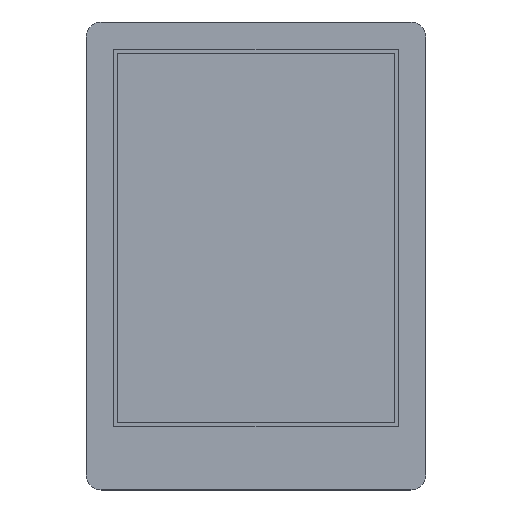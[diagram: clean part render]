
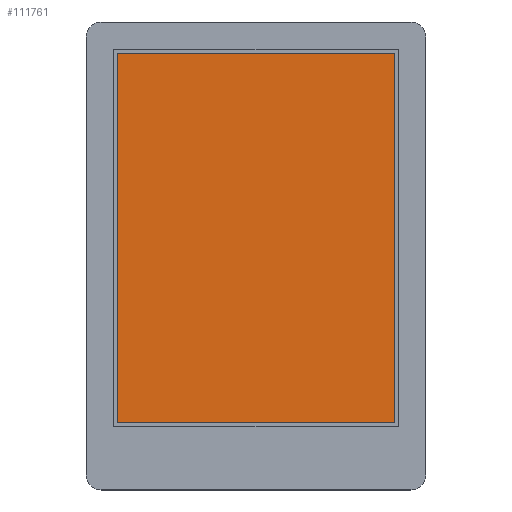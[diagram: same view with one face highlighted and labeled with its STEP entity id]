
A CAD part, top view. The second image highlights one B-rep face of the part: STEP entity #111761.
In plain terms, the highlighted planar face has unit normal (0, 0, 1).
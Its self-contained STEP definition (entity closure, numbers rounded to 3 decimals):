
#3852 = EDGE_LOOP ( 'NONE', ( #121460, #151635, #83729, #145510 ) ) ;
#8790 = CARTESIAN_POINT ( 'NONE',  ( 0., 0., 0.7 ) ) ;
#10759 = AXIS2_PLACEMENT_3D ( 'NONE', #8790, #134515, #79203 ) ;
#13795 = LINE ( 'NONE', #104878, #218993 ) ;
#34758 = EDGE_CURVE ( 'NONE', #127265, #74365, #126920, .T. ) ;
#39225 = CARTESIAN_POINT ( 'NONE',  ( -64.493, 0., 0.7 ) ) ;
#39818 = DIRECTION ( 'NONE',  ( -1., 0., 0. ) ) ;
#54135 = CARTESIAN_POINT ( 'NONE',  ( -64.493, 36.252, 0.7 ) ) ;
#56419 = PLANE ( 'NONE',  #10759 ) ;
#63771 = CARTESIAN_POINT ( 'NONE',  ( -27.773, -12.708, 0.7 ) ) ;
#74365 = VERTEX_POINT ( 'NONE', #54135 ) ;
#74485 = VECTOR ( 'NONE', #210835, 1000. ) ;
#79203 = DIRECTION ( 'NONE',  ( 1., 0., 0. ) ) ;
#83729 = ORIENTED_EDGE ( 'NONE', *, *, #178072, .F. ) ;
#92346 = DIRECTION ( 'NONE',  ( 0., 1., 0. ) ) ;
#104878 = CARTESIAN_POINT ( 'NONE',  ( 0., 36.252, 0.7 ) ) ;
#111761 = ADVANCED_FACE ( 'NONE', ( #112634 ), #56419, .T. ) ;
#112634 = FACE_OUTER_BOUND ( 'NONE', #3852, .T. ) ;
#121460 = ORIENTED_EDGE ( 'NONE', *, *, #34758, .F. ) ;
#126920 = LINE ( 'NONE', #39225, #226271 ) ;
#127265 = VERTEX_POINT ( 'NONE', #176706 ) ;
#128662 = CARTESIAN_POINT ( 'NONE',  ( -27.773, 0., 0.7 ) ) ;
#133487 = VECTOR ( 'NONE', #39818, 1000. ) ;
#134515 = DIRECTION ( 'NONE',  ( 0., 0., 1. ) ) ;
#137921 = VERTEX_POINT ( 'NONE', #226391 ) ;
#145510 = ORIENTED_EDGE ( 'NONE', *, *, #196027, .F. ) ;
#151635 = ORIENTED_EDGE ( 'NONE', *, *, #208280, .F. ) ;
#159035 = DIRECTION ( 'NONE',  ( 1., 0., 0. ) ) ;
#165554 = CARTESIAN_POINT ( 'NONE',  ( 0., -12.708, 0.7 ) ) ;
#176706 = CARTESIAN_POINT ( 'NONE',  ( -64.493, -12.708, 0.7 ) ) ;
#178072 = EDGE_CURVE ( 'NONE', #137921, #180222, #200062, .T. ) ;
#180222 = VERTEX_POINT ( 'NONE', #63771 ) ;
#196027 = EDGE_CURVE ( 'NONE', #74365, #137921, #13795, .T. ) ;
#197783 = LINE ( 'NONE', #165554, #133487 ) ;
#200062 = LINE ( 'NONE', #128662, #74485 ) ;
#208280 = EDGE_CURVE ( 'NONE', #180222, #127265, #197783, .T. ) ;
#210835 = DIRECTION ( 'NONE',  ( 0., -1., 0. ) ) ;
#218993 = VECTOR ( 'NONE', #159035, 1000. ) ;
#226271 = VECTOR ( 'NONE', #92346, 1000. ) ;
#226391 = CARTESIAN_POINT ( 'NONE',  ( -27.773, 36.252, 0.7 ) ) ;
